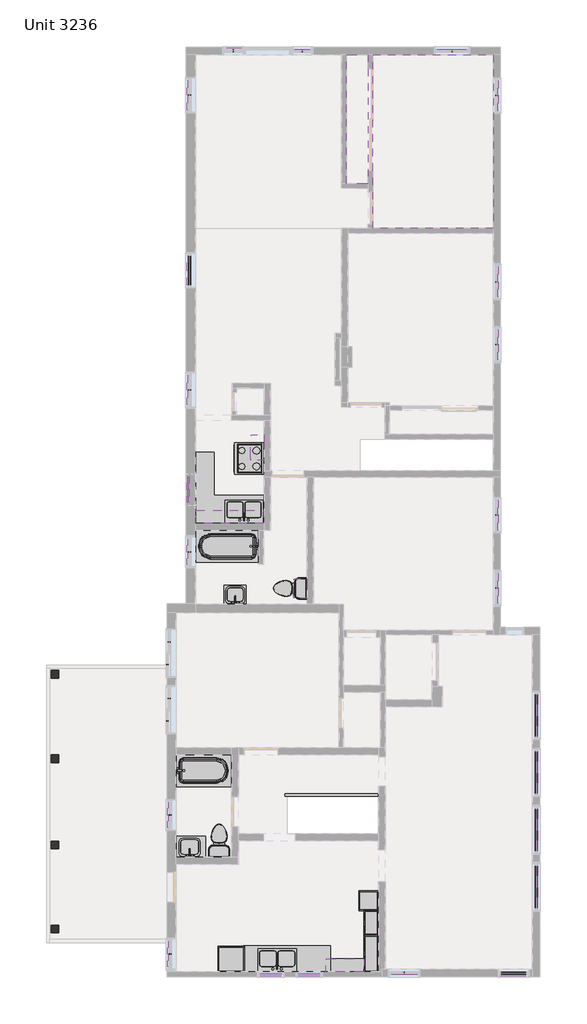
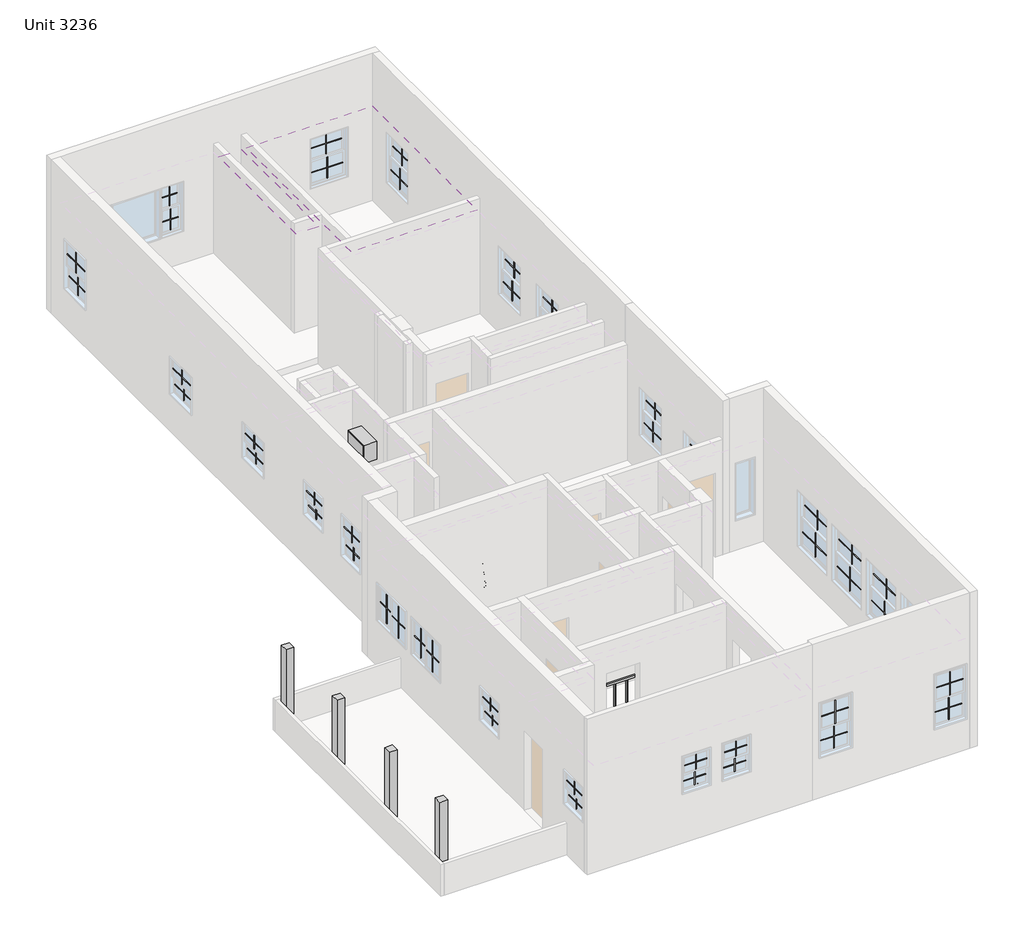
# One storey, part 3 of 3: 56 proxies, 8 flow terminals, 8 furniture elements, 4 columns, 2 coverings, 1 railing.
"""IFC4 building model written with IfcOpenShell, lengths in millimetres."""

from ifc_helpers import new_model, si_unit, frame, origin, place, context, project, spatial, polyline, outline, extrude, transform, mapped, element, save
from components import countertop_rectangle_shape_base_default_1_9c208747, countertop_rectangle_shape_base_default_1_ba904f1b, countertop_rectangle_shape_base_default_1_86df66de, countertop_rectangle_shape_base_default_1_dbb71e68, default_1_6962a21b, muntin_pattern_2x2_muntin_pattern_2x2_335bf343, muntin_pattern_2x2_muntin_pattern_2x2_088060db, muntin_pattern_2x2_muntin_pattern_2x2_c461390f, muntin_pattern_2x2_muntin_pattern_2x2_15a54056, muntin_pattern_2x2_muntin_pattern_2x2_07ca9e42, muntin_pattern_2x2_muntin_pattern_2x2_2e999a57, muntin_pattern_2x2_muntin_pattern_2x2_c2d573db, muntin_pattern_2x2_muntin_pattern_2x2_9f8062bf, muntin_pattern_2x2_muntin_pattern_2x2_a0f89851, muntin_pattern_2x2_muntin_pattern_2x2_6bdc9780, muntin_pattern_2x2_muntin_pattern_2x2_f959a747, stove_default_1_9706c03c, flow_terminal_2d_kitchen_double_sink_default_1_847390bf, flow_terminal_2d_kitchen_double_sink_default_1_4ed9f79b, bath_basin_do_not_use_500_x_440mm_22030706, bath_basin_do_not_use_500_x_440mm_69736ad6, bath_bathtub_default_1_110718b2, bath_bathtub_default_1_21554224, toilet_default_1_5cb52bd4, toilet_default_1_183bbd19, tall_cabinet_double_door_4_default_1_131b94b9, tall_cabinet_double_door_4_default_1_5a30d7e3, tall_cabinet_double_door_4_default_1_fbb226ff, furniture_6a7c2255, furniture_66714404, furniture_1611b9c0, furniture_12663e75, furniture_e144d364

model = new_model("IFC4")

# Units and contexts
model_context = context("Model", 3, world=origin())
ifc_project = project(units=[si_unit("LENGTHUNIT", "METRE", prefix="MILLI")], contexts=[model_context])

# Site, building, storey
site = spatial("IfcSite", under=ifc_project)
building = spatial("IfcBuilding", under=site)
storey = spatial("IfcBuildingStorey", under=building, Name="Unit 3236", Elevation=2895.6)

# Proxies
placement = place(None, origin())
countertop_rectangle_shape_base_default_1_shape = countertop_rectangle_shape_base_default_1_9c208747(model_context)
element("IfcBuildingElementProxy", 1, Name="Countertop- Rectangle shape base : Default 1", ObjectType="Countertop- Rectangle shape base : Default 1", at=placement, inside=storey, context=model_context, shape_type="MappedRepresentation", body=[
    mapped(countertop_rectangle_shape_base_default_1_shape, transform((-4184.0802402, -6979.2961647, 2895.6), x_axis=(1.0, 0.0, 0.0), y_axis=(0.0, 1.0, 0.0), z_axis=(0.0, 0.0, 1.0))),
])
countertop_rectangle_shape_base_default_1_2_shape = countertop_rectangle_shape_base_default_1_ba904f1b(model_context)
element("IfcBuildingElementProxy", 2, Name="Countertop- Rectangle shape base : Default 1", ObjectType="Countertop- Rectangle shape base : Default 1", at=placement, inside=storey, context=model_context, shape_type="MappedRepresentation", body=[
    mapped(countertop_rectangle_shape_base_default_1_2_shape, transform((-1869.5052402, -9662.1711647, 2895.6), x_axis=(1.0, 0.0, 0.0), y_axis=(0.0, 1.0, 0.0), z_axis=(0.0, 0.0, 1.0))),
])
countertop_rectangle_shape_base_default_1_3_shape = countertop_rectangle_shape_base_default_1_86df66de(model_context)
element("IfcBuildingElementProxy", 3, Name="Countertop- Rectangle shape base : Default 1", ObjectType="Countertop- Rectangle shape base : Default 1", at=placement, inside=storey, context=model_context, shape_type="MappedRepresentation", body=[
    mapped(countertop_rectangle_shape_base_default_1_3_shape, transform((-3107.7552402, -956.3211647, 2895.6), x_axis=(1.0, 0.0, 0.0), y_axis=(0.0, 1.0, 0.0), z_axis=(0.0, 0.0, 1.0))),
])
countertop_rectangle_shape_base_default_1_4_shape = countertop_rectangle_shape_base_default_1_dbb71e68(model_context)
element("IfcBuildingElementProxy", 4, Name="Countertop- Rectangle shape base : Default 1", ObjectType="Countertop- Rectangle shape base : Default 1", at=placement, inside=storey, context=model_context, shape_type="MappedRepresentation", body=[
    mapped(countertop_rectangle_shape_base_default_1_4_shape, transform((-437.5802402, -9814.5711647, 2895.6), x_axis=(1.0, 0.0, 0.0), y_axis=(0.0, 1.0, 0.0), z_axis=(0.0, 0.0, 1.0))),
])
default_1_shape = default_1_6962a21b(model_context)
element("IfcBuildingElementProxy", 5, Name="Countertop- L  Shape base : Default 1", ObjectType="Countertop- L  Shape base : Default 1", at=placement, inside=storey, context=model_context, shape_type="MappedRepresentation", body=[
    mapped(default_1_shape, transform((-3187.6302402, 1142.3538353, 2895.6), x_axis=(1.0, 0.0, 0.0), y_axis=(0.0, 1.0, 0.0), z_axis=(0.0, 0.0, 1.0))),
])
muntin_pattern_2x2_muntin_pattern_2x2_shape = muntin_pattern_2x2_muntin_pattern_2x2_335bf343(model_context)
element("IfcBuildingElementProxy", 6, Name="Muntin Pattern_2x2 : Muntin Pattern_2x2", ObjectType="Muntin Pattern_2x2 : Muntin Pattern_2x2", at=placement, inside=storey, context=model_context, shape_type="MappedRepresentation", body=[
    mapped(muntin_pattern_2x2_muntin_pattern_2x2_shape, transform((4318.5697598, -9662.1711647, 4276.725), x_axis=(-1.0, 0.0, 0.0), y_axis=(0.0, -1.0, 0.0), z_axis=(0.0, 0.0, 1.0))),
])
element("IfcBuildingElementProxy", 7, Name="Muntin Pattern_2x2 : Muntin Pattern_2x2", ObjectType="Muntin Pattern_2x2 : Muntin Pattern_2x2", at=placement, inside=storey, context=model_context, shape_type="MappedRepresentation", body=[
    mapped(muntin_pattern_2x2_muntin_pattern_2x2_shape, transform((4318.5697598, -9617.7211647, 3657.6), x_axis=(-1.0, 0.0, 0.0), y_axis=(0.0, -1.0, 0.0), z_axis=(0.0, 0.0, 1.0))),
])
element("IfcBuildingElementProxy", 8, Name="Muntin Pattern_2x2 : Muntin Pattern_2x2", ObjectType="Muntin Pattern_2x2 : Muntin Pattern_2x2", at=placement, inside=storey, context=model_context, shape_type="MappedRepresentation", body=[
    mapped(muntin_pattern_2x2_muntin_pattern_2x2_shape, transform((1696.0197598, -9662.1711647, 4505.325), x_axis=(-1.0, 0.0, 0.0), y_axis=(0.0, -1.0, 0.0), z_axis=(0.0, 0.0, 1.0))),
])
element("IfcBuildingElementProxy", 9, Name="Muntin Pattern_2x2 : Muntin Pattern_2x2", ObjectType="Muntin Pattern_2x2 : Muntin Pattern_2x2", at=placement, inside=storey, context=model_context, shape_type="MappedRepresentation", body=[
    mapped(muntin_pattern_2x2_muntin_pattern_2x2_shape, transform((1696.0197598, -9617.7211647, 3886.2), x_axis=(-1.0, 0.0, 0.0), y_axis=(0.0, -1.0, 0.0), z_axis=(0.0, 0.0, 1.0))),
])
muntin_pattern_2x2_muntin_pattern_2x2_2_shape = muntin_pattern_2x2_muntin_pattern_2x2_088060db(model_context)
element("IfcBuildingElementProxy", 10, Name="Muntin Pattern_2x2 : Muntin Pattern_2x2", ObjectType="Muntin Pattern_2x2 : Muntin Pattern_2x2", at=placement, inside=storey, context=model_context, shape_type="MappedRepresentation", body=[
    mapped(muntin_pattern_2x2_muntin_pattern_2x2_2_shape, transform((4905.9447598, -7550.7961647, 4289.425), x_axis=(0.0, -1.0, 0.0), y_axis=(1.0, 0.0, 0.0), z_axis=(0.0, 0.0, 1.0))),
])
element("IfcBuildingElementProxy", 11, Name="Muntin Pattern_2x2 : Muntin Pattern_2x2", ObjectType="Muntin Pattern_2x2 : Muntin Pattern_2x2", at=placement, inside=storey, context=model_context, shape_type="MappedRepresentation", body=[
    mapped(muntin_pattern_2x2_muntin_pattern_2x2_2_shape, transform((4861.4947598, -7550.7961647, 3657.6), x_axis=(0.0, -1.0, 0.0), y_axis=(1.0, 0.0, 0.0), z_axis=(0.0, 0.0, 1.0))),
])
element("IfcBuildingElementProxy", 12, Name="Muntin Pattern_2x2 : Muntin Pattern_2x2", ObjectType="Muntin Pattern_2x2 : Muntin Pattern_2x2", at=placement, inside=storey, context=model_context, shape_type="MappedRepresentation", body=[
    mapped(muntin_pattern_2x2_muntin_pattern_2x2_2_shape, transform((4905.9447598, -6185.5461647, 4289.425), x_axis=(0.0, -1.0, 0.0), y_axis=(1.0, 0.0, 0.0), z_axis=(0.0, 0.0, 1.0))),
])
element("IfcBuildingElementProxy", 13, Name="Muntin Pattern_2x2 : Muntin Pattern_2x2", ObjectType="Muntin Pattern_2x2 : Muntin Pattern_2x2", at=placement, inside=storey, context=model_context, shape_type="MappedRepresentation", body=[
    mapped(muntin_pattern_2x2_muntin_pattern_2x2_2_shape, transform((4861.4947598, -6185.5461647, 3657.6), x_axis=(0.0, -1.0, 0.0), y_axis=(1.0, 0.0, 0.0), z_axis=(0.0, 0.0, 1.0))),
])
element("IfcBuildingElementProxy", 14, Name="Muntin Pattern_2x2 : Muntin Pattern_2x2", ObjectType="Muntin Pattern_2x2 : Muntin Pattern_2x2", at=placement, inside=storey, context=model_context, shape_type="MappedRepresentation", body=[
    mapped(muntin_pattern_2x2_muntin_pattern_2x2_2_shape, transform((4905.9447598, -4813.9461647, 4289.425), x_axis=(0.0, -1.0, 0.0), y_axis=(1.0, 0.0, 0.0), z_axis=(0.0, 0.0, 1.0))),
])
element("IfcBuildingElementProxy", 15, Name="Muntin Pattern_2x2 : Muntin Pattern_2x2", ObjectType="Muntin Pattern_2x2 : Muntin Pattern_2x2", at=placement, inside=storey, context=model_context, shape_type="MappedRepresentation", body=[
    mapped(muntin_pattern_2x2_muntin_pattern_2x2_2_shape, transform((4861.4947598, -4813.9461647, 3657.6), x_axis=(0.0, -1.0, 0.0), y_axis=(1.0, 0.0, 0.0), z_axis=(0.0, 0.0, 1.0))),
])
element("IfcBuildingElementProxy", 16, Name="Muntin Pattern_2x2 : Muntin Pattern_2x2", ObjectType="Muntin Pattern_2x2 : Muntin Pattern_2x2", at=placement, inside=storey, context=model_context, shape_type="MappedRepresentation", body=[
    mapped(muntin_pattern_2x2_muntin_pattern_2x2_2_shape, transform((4905.9447598, -3448.6961647, 4289.425), x_axis=(0.0, -1.0, 0.0), y_axis=(1.0, 0.0, 0.0), z_axis=(0.0, 0.0, 1.0))),
])
element("IfcBuildingElementProxy", 17, Name="Muntin Pattern_2x2 : Muntin Pattern_2x2", ObjectType="Muntin Pattern_2x2 : Muntin Pattern_2x2", at=placement, inside=storey, context=model_context, shape_type="MappedRepresentation", body=[
    mapped(muntin_pattern_2x2_muntin_pattern_2x2_2_shape, transform((4861.4947598, -3448.6961647, 3657.6), x_axis=(0.0, -1.0, 0.0), y_axis=(1.0, 0.0, 0.0), z_axis=(0.0, 0.0, 1.0))),
])
muntin_pattern_2x2_muntin_pattern_2x2_3_shape = muntin_pattern_2x2_muntin_pattern_2x2_c461390f(model_context)
element("IfcBuildingElementProxy", 18, Name="Muntin Pattern_2x2 : Muntin Pattern_2x2", ObjectType="Muntin Pattern_2x2 : Muntin Pattern_2x2", at=placement, inside=storey, context=model_context, shape_type="MappedRepresentation", body=[
    mapped(muntin_pattern_2x2_muntin_pattern_2x2_3_shape, transform((3959.7947598, -407.0461647, 4391.025), x_axis=(0.0, -1.0, 0.0), y_axis=(1.0, 0.0, 0.0), z_axis=(0.0, 0.0, 1.0))),
])
element("IfcBuildingElementProxy", 19, Name="Muntin Pattern_2x2 : Muntin Pattern_2x2", ObjectType="Muntin Pattern_2x2 : Muntin Pattern_2x2", at=placement, inside=storey, context=model_context, shape_type="MappedRepresentation", body=[
    mapped(muntin_pattern_2x2_muntin_pattern_2x2_3_shape, transform((3915.3447598, -407.0461647, 3860.8), x_axis=(0.0, -1.0, 0.0), y_axis=(1.0, 0.0, 0.0), z_axis=(0.0, 0.0, 1.0))),
])
element("IfcBuildingElementProxy", 20, Name="Muntin Pattern_2x2 : Muntin Pattern_2x2", ObjectType="Muntin Pattern_2x2 : Muntin Pattern_2x2", at=placement, inside=storey, context=model_context, shape_type="MappedRepresentation", body=[
    mapped(muntin_pattern_2x2_muntin_pattern_2x2_3_shape, transform((3959.7947598, 1339.2038353, 4391.025), x_axis=(0.0, -1.0, 0.0), y_axis=(1.0, 0.0, 0.0), z_axis=(0.0, 0.0, 1.0))),
])
element("IfcBuildingElementProxy", 21, Name="Muntin Pattern_2x2 : Muntin Pattern_2x2", ObjectType="Muntin Pattern_2x2 : Muntin Pattern_2x2", at=placement, inside=storey, context=model_context, shape_type="MappedRepresentation", body=[
    mapped(muntin_pattern_2x2_muntin_pattern_2x2_3_shape, transform((3915.3447598, 1339.2038353, 3860.8), x_axis=(0.0, -1.0, 0.0), y_axis=(1.0, 0.0, 0.0), z_axis=(0.0, 0.0, 1.0))),
])
element("IfcBuildingElementProxy", 22, Name="Muntin Pattern_2x2 : Muntin Pattern_2x2", ObjectType="Muntin Pattern_2x2 : Muntin Pattern_2x2", at=placement, inside=storey, context=model_context, shape_type="MappedRepresentation", body=[
    mapped(muntin_pattern_2x2_muntin_pattern_2x2_3_shape, transform((3959.7947598, 5415.9038353, 4416.425), x_axis=(0.0, -1.0, 0.0), y_axis=(1.0, 0.0, 0.0), z_axis=(0.0, 0.0, 1.0))),
])
element("IfcBuildingElementProxy", 23, Name="Muntin Pattern_2x2 : Muntin Pattern_2x2", ObjectType="Muntin Pattern_2x2 : Muntin Pattern_2x2", at=placement, inside=storey, context=model_context, shape_type="MappedRepresentation", body=[
    mapped(muntin_pattern_2x2_muntin_pattern_2x2_3_shape, transform((3915.3447598, 5415.9038353, 3886.2), x_axis=(0.0, -1.0, 0.0), y_axis=(1.0, 0.0, 0.0), z_axis=(0.0, 0.0, 1.0))),
])
element("IfcBuildingElementProxy", 24, Name="Muntin Pattern_2x2 : Muntin Pattern_2x2", ObjectType="Muntin Pattern_2x2 : Muntin Pattern_2x2", at=placement, inside=storey, context=model_context, shape_type="MappedRepresentation", body=[
    mapped(muntin_pattern_2x2_muntin_pattern_2x2_3_shape, transform((3959.7947598, 6920.8538353, 4416.425), x_axis=(0.0, -1.0, 0.0), y_axis=(1.0, 0.0, 0.0), z_axis=(0.0, 0.0, 1.0))),
])
element("IfcBuildingElementProxy", 25, Name="Muntin Pattern_2x2 : Muntin Pattern_2x2", ObjectType="Muntin Pattern_2x2 : Muntin Pattern_2x2", at=placement, inside=storey, context=model_context, shape_type="MappedRepresentation", body=[
    mapped(muntin_pattern_2x2_muntin_pattern_2x2_3_shape, transform((3915.3447598, 6920.8538353, 3886.2), x_axis=(0.0, -1.0, 0.0), y_axis=(1.0, 0.0, 0.0), z_axis=(0.0, 0.0, 1.0))),
])
muntin_pattern_2x2_muntin_pattern_2x2_4_shape = muntin_pattern_2x2_muntin_pattern_2x2_15a54056(model_context)
element("IfcBuildingElementProxy", 26, Name="Muntin Pattern_2x2 : Muntin Pattern_2x2", ObjectType="Muntin Pattern_2x2 : Muntin Pattern_2x2", at=placement, inside=storey, context=model_context, shape_type="MappedRepresentation", body=[
    mapped(muntin_pattern_2x2_muntin_pattern_2x2_4_shape, transform((-739.2052402, 12492.9788353, 4441.825), x_axis=(1.0, 0.0, 0.0), y_axis=(0.0, 1.0, 0.0), z_axis=(0.0, 0.0, 1.0))),
])
element("IfcBuildingElementProxy", 27, Name="Muntin Pattern_2x2 : Muntin Pattern_2x2", ObjectType="Muntin Pattern_2x2 : Muntin Pattern_2x2", at=placement, inside=storey, context=model_context, shape_type="MappedRepresentation", body=[
    mapped(muntin_pattern_2x2_muntin_pattern_2x2_4_shape, transform((-739.2052402, 12448.5288353, 3886.2), x_axis=(1.0, 0.0, 0.0), y_axis=(0.0, 1.0, 0.0), z_axis=(0.0, 0.0, 1.0))),
])
element("IfcBuildingElementProxy", 28, Name="Muntin Pattern_2x2 : Muntin Pattern_2x2", ObjectType="Muntin Pattern_2x2 : Muntin Pattern_2x2", at=placement, inside=storey, context=model_context, shape_type="MappedRepresentation", body=[
    mapped(muntin_pattern_2x2_muntin_pattern_2x2_4_shape, transform((-2390.2052402, 12492.9788353, 4441.825), x_axis=(1.0, 0.0, 0.0), y_axis=(0.0, 1.0, 0.0), z_axis=(0.0, 0.0, 1.0))),
])
element("IfcBuildingElementProxy", 29, Name="Muntin Pattern_2x2 : Muntin Pattern_2x2", ObjectType="Muntin Pattern_2x2 : Muntin Pattern_2x2", at=placement, inside=storey, context=model_context, shape_type="MappedRepresentation", body=[
    mapped(muntin_pattern_2x2_muntin_pattern_2x2_4_shape, transform((-2390.2052402, 12448.5288353, 3886.2), x_axis=(1.0, 0.0, 0.0), y_axis=(0.0, 1.0, 0.0), z_axis=(0.0, 0.0, 1.0))),
])
muntin_pattern_2x2_muntin_pattern_2x2_5_shape = muntin_pattern_2x2_muntin_pattern_2x2_07ca9e42(model_context)
element("IfcBuildingElementProxy", 30, Name="Muntin Pattern_2x2 : Muntin Pattern_2x2", ObjectType="Muntin Pattern_2x2 : Muntin Pattern_2x2", at=placement, inside=storey, context=model_context, shape_type="MappedRepresentation", body=[
    mapped(muntin_pattern_2x2_muntin_pattern_2x2_5_shape, transform((3959.7947598, 11372.2038353, 4441.825), x_axis=(0.0, -1.0, 0.0), y_axis=(1.0, 0.0, 0.0), z_axis=(0.0, 0.0, 1.0))),
])
element("IfcBuildingElementProxy", 31, Name="Muntin Pattern_2x2 : Muntin Pattern_2x2", ObjectType="Muntin Pattern_2x2 : Muntin Pattern_2x2", at=placement, inside=storey, context=model_context, shape_type="MappedRepresentation", body=[
    mapped(muntin_pattern_2x2_muntin_pattern_2x2_5_shape, transform((3915.3447598, 11372.2038353, 3886.2), x_axis=(0.0, -1.0, 0.0), y_axis=(1.0, 0.0, 0.0), z_axis=(0.0, 0.0, 1.0))),
])
element("IfcBuildingElementProxy", 32, Name="Muntin Pattern_2x2 : Muntin Pattern_2x2", ObjectType="Muntin Pattern_2x2 : Muntin Pattern_2x2", at=placement, inside=storey, context=model_context, shape_type="MappedRepresentation", body=[
    mapped(muntin_pattern_2x2_muntin_pattern_2x2_5_shape, transform((2845.3697598, 12492.9788353, 4441.825), x_axis=(1.0, 0.0, 0.0), y_axis=(0.0, 1.0, 0.0), z_axis=(0.0, 0.0, 1.0))),
])
element("IfcBuildingElementProxy", 33, Name="Muntin Pattern_2x2 : Muntin Pattern_2x2", ObjectType="Muntin Pattern_2x2 : Muntin Pattern_2x2", at=placement, inside=storey, context=model_context, shape_type="MappedRepresentation", body=[
    mapped(muntin_pattern_2x2_muntin_pattern_2x2_5_shape, transform((2845.3697598, 12448.5288353, 3886.2), x_axis=(1.0, 0.0, 0.0), y_axis=(0.0, 1.0, 0.0), z_axis=(0.0, 0.0, 1.0))),
])
element("IfcBuildingElementProxy", 34, Name="Muntin Pattern_2x2 : Muntin Pattern_2x2", ObjectType="Muntin Pattern_2x2 : Muntin Pattern_2x2", at=placement, inside=storey, context=model_context, shape_type="MappedRepresentation", body=[
    mapped(muntin_pattern_2x2_muntin_pattern_2x2_5_shape, transform((-3482.4052402, 11384.9038353, 4441.825), x_axis=(0.0, 1.0, 0.0), y_axis=(-1.0, 0.0, 0.0), z_axis=(0.0, 0.0, 1.0))),
])
element("IfcBuildingElementProxy", 35, Name="Muntin Pattern_2x2 : Muntin Pattern_2x2", ObjectType="Muntin Pattern_2x2 : Muntin Pattern_2x2", at=placement, inside=storey, context=model_context, shape_type="MappedRepresentation", body=[
    mapped(muntin_pattern_2x2_muntin_pattern_2x2_5_shape, transform((-3437.9552402, 11384.9038353, 3886.2), x_axis=(0.0, 1.0, 0.0), y_axis=(-1.0, 0.0, 0.0), z_axis=(0.0, 0.0, 1.0))),
])
muntin_pattern_2x2_muntin_pattern_2x2_6_shape = muntin_pattern_2x2_muntin_pattern_2x2_2e999a57(model_context)
element("IfcBuildingElementProxy", 36, Name="Muntin Pattern_2x2 : Muntin Pattern_2x2", ObjectType="Muntin Pattern_2x2 : Muntin Pattern_2x2", at=placement, inside=storey, context=model_context, shape_type="MappedRepresentation", body=[
    mapped(muntin_pattern_2x2_muntin_pattern_2x2_6_shape, transform((-3482.4052402, 7193.9038353, 4289.425), x_axis=(0.0, 1.0, 0.0), y_axis=(-1.0, 0.0, 0.0), z_axis=(0.0, 0.0, 1.0))),
])
element("IfcBuildingElementProxy", 37, Name="Muntin Pattern_2x2 : Muntin Pattern_2x2", ObjectType="Muntin Pattern_2x2 : Muntin Pattern_2x2", at=placement, inside=storey, context=model_context, shape_type="MappedRepresentation", body=[
    mapped(muntin_pattern_2x2_muntin_pattern_2x2_6_shape, transform((-3437.9552402, 7193.9038353, 3886.2), x_axis=(0.0, 1.0, 0.0), y_axis=(-1.0, 0.0, 0.0), z_axis=(0.0, 0.0, 1.0))),
])
muntin_pattern_2x2_muntin_pattern_2x2_7_shape = muntin_pattern_2x2_muntin_pattern_2x2_c2d573db(model_context)
element("IfcBuildingElementProxy", 38, Name="Muntin Pattern_2x2 : Muntin Pattern_2x2", ObjectType="Muntin Pattern_2x2 : Muntin Pattern_2x2", at=placement, inside=storey, context=model_context, shape_type="MappedRepresentation", body=[
    mapped(muntin_pattern_2x2_muntin_pattern_2x2_7_shape, transform((-3482.4052402, 4330.0538353, 4467.225), x_axis=(0.0, 1.0, 0.0), y_axis=(-1.0, 0.0, 0.0), z_axis=(0.0, 0.0, 1.0))),
])
element("IfcBuildingElementProxy", 39, Name="Muntin Pattern_2x2 : Muntin Pattern_2x2", ObjectType="Muntin Pattern_2x2 : Muntin Pattern_2x2", at=placement, inside=storey, context=model_context, shape_type="MappedRepresentation", body=[
    mapped(muntin_pattern_2x2_muntin_pattern_2x2_7_shape, transform((-3437.9552402, 4330.0538353, 4089.4), x_axis=(0.0, 1.0, 0.0), y_axis=(-1.0, 0.0, 0.0), z_axis=(0.0, 0.0, 1.0))),
])
muntin_pattern_2x2_muntin_pattern_2x2_8_shape = muntin_pattern_2x2_muntin_pattern_2x2_9f8062bf(model_context)
element("IfcBuildingElementProxy", 40, Name="Muntin Pattern_2x2 : Muntin Pattern_2x2", ObjectType="Muntin Pattern_2x2 : Muntin Pattern_2x2", at=placement, inside=storey, context=model_context, shape_type="MappedRepresentation", body=[
    mapped(muntin_pattern_2x2_muntin_pattern_2x2_8_shape, transform((-3482.4052402, 1948.8038353, 4556.125), x_axis=(0.0, 1.0, 0.0), y_axis=(-1.0, 0.0, 0.0), z_axis=(0.0, 0.0, 1.0))),
])
element("IfcBuildingElementProxy", 41, Name="Muntin Pattern_2x2 : Muntin Pattern_2x2", ObjectType="Muntin Pattern_2x2 : Muntin Pattern_2x2", at=placement, inside=storey, context=model_context, shape_type="MappedRepresentation", body=[
    mapped(muntin_pattern_2x2_muntin_pattern_2x2_8_shape, transform((-3437.9552402, 1948.8038353, 4191.0), x_axis=(0.0, 1.0, 0.0), y_axis=(-1.0, 0.0, 0.0), z_axis=(0.0, 0.0, 1.0))),
])
element("IfcBuildingElementProxy", 42, Name="Muntin Pattern_2x2 : Muntin Pattern_2x2", ObjectType="Muntin Pattern_2x2 : Muntin Pattern_2x2", at=placement, inside=storey, context=model_context, shape_type="MappedRepresentation", body=[
    mapped(muntin_pattern_2x2_muntin_pattern_2x2_8_shape, transform((-3945.9552402, -5829.9461647, 4454.525), x_axis=(0.0, 1.0, 0.0), y_axis=(-1.0, 0.0, 0.0), z_axis=(0.0, 0.0, 1.0))),
])
element("IfcBuildingElementProxy", 43, Name="Muntin Pattern_2x2 : Muntin Pattern_2x2", ObjectType="Muntin Pattern_2x2 : Muntin Pattern_2x2", at=placement, inside=storey, context=model_context, shape_type="MappedRepresentation", body=[
    mapped(muntin_pattern_2x2_muntin_pattern_2x2_8_shape, transform((-3901.5052402, -5829.9461647, 4089.4), x_axis=(0.0, 1.0, 0.0), y_axis=(-1.0, 0.0, 0.0), z_axis=(0.0, 0.0, 1.0))),
])
element("IfcBuildingElementProxy", 44, Name="Muntin Pattern_2x2 : Muntin Pattern_2x2", ObjectType="Muntin Pattern_2x2 : Muntin Pattern_2x2", at=placement, inside=storey, context=model_context, shape_type="MappedRepresentation", body=[
    mapped(muntin_pattern_2x2_muntin_pattern_2x2_8_shape, transform((-3945.9552402, -9157.3461647, 4454.525), x_axis=(0.0, 1.0, 0.0), y_axis=(-1.0, 0.0, 0.0), z_axis=(0.0, 0.0, 1.0))),
])
element("IfcBuildingElementProxy", 45, Name="Muntin Pattern_2x2 : Muntin Pattern_2x2", ObjectType="Muntin Pattern_2x2 : Muntin Pattern_2x2", at=placement, inside=storey, context=model_context, shape_type="MappedRepresentation", body=[
    mapped(muntin_pattern_2x2_muntin_pattern_2x2_8_shape, transform((-3901.5052402, -9157.3461647, 4089.4), x_axis=(0.0, 1.0, 0.0), y_axis=(-1.0, 0.0, 0.0), z_axis=(0.0, 0.0, 1.0))),
])
muntin_pattern_2x2_muntin_pattern_2x2_9_shape = muntin_pattern_2x2_muntin_pattern_2x2_a0f89851(model_context)
element("IfcBuildingElementProxy", 46, Name="Muntin Pattern_2x2 : Muntin Pattern_2x2", ObjectType="Muntin Pattern_2x2 : Muntin Pattern_2x2", at=placement, inside=storey, context=model_context, shape_type="MappedRepresentation", body=[
    mapped(muntin_pattern_2x2_muntin_pattern_2x2_9_shape, transform((-3482.4052402, 462.9038353, 4543.425), x_axis=(0.0, 1.0, 0.0), y_axis=(-1.0, 0.0, 0.0), z_axis=(0.0, 0.0, 1.0))),
])
element("IfcBuildingElementProxy", 47, Name="Muntin Pattern_2x2 : Muntin Pattern_2x2", ObjectType="Muntin Pattern_2x2 : Muntin Pattern_2x2", at=placement, inside=storey, context=model_context, shape_type="MappedRepresentation", body=[
    mapped(muntin_pattern_2x2_muntin_pattern_2x2_9_shape, transform((-3437.9552402, 462.9038353, 4089.4), x_axis=(0.0, 1.0, 0.0), y_axis=(-1.0, 0.0, 0.0), z_axis=(0.0, 0.0, 1.0))),
])
muntin_pattern_2x2_muntin_pattern_2x2_10_shape = muntin_pattern_2x2_muntin_pattern_2x2_6bdc9780(model_context)
element("IfcBuildingElementProxy", 48, Name="Muntin Pattern_2x2 : Muntin Pattern_2x2", ObjectType="Muntin Pattern_2x2 : Muntin Pattern_2x2", at=placement, inside=storey, context=model_context, shape_type="MappedRepresentation", body=[
    mapped(muntin_pattern_2x2_muntin_pattern_2x2_10_shape, transform((-3926.9052402, -1688.2368647, 4044.95), x_axis=(0.0, 1.0, 0.0), y_axis=(-1.0, 0.0, 0.0), z_axis=(0.0, 0.0, 1.0))),
])
element("IfcBuildingElementProxy", 49, Name="Muntin Pattern_2x2 : Muntin Pattern_2x2", ObjectType="Muntin Pattern_2x2 : Muntin Pattern_2x2", at=placement, inside=storey, context=model_context, shape_type="MappedRepresentation", body=[
    mapped(muntin_pattern_2x2_muntin_pattern_2x2_10_shape, transform((-3971.3552402, -2231.1618647, 4044.95), x_axis=(0.0, 1.0, 0.0), y_axis=(-1.0, 0.0, 0.0), z_axis=(0.0, 0.0, 1.0))),
])
element("IfcBuildingElementProxy", 50, Name="Muntin Pattern_2x2 : Muntin Pattern_2x2", ObjectType="Muntin Pattern_2x2 : Muntin Pattern_2x2", at=placement, inside=storey, context=model_context, shape_type="MappedRepresentation", body=[
    mapped(muntin_pattern_2x2_muntin_pattern_2x2_10_shape, transform((-3926.9052402, -3043.8836647, 4044.95), x_axis=(0.0, 1.0, 0.0), y_axis=(-1.0, 0.0, 0.0), z_axis=(0.0, 0.0, 1.0))),
])
element("IfcBuildingElementProxy", 51, Name="Muntin Pattern_2x2 : Muntin Pattern_2x2", ObjectType="Muntin Pattern_2x2 : Muntin Pattern_2x2", at=placement, inside=storey, context=model_context, shape_type="MappedRepresentation", body=[
    mapped(muntin_pattern_2x2_muntin_pattern_2x2_10_shape, transform((-3971.3552402, -3586.8086647, 4044.95), x_axis=(0.0, 1.0, 0.0), y_axis=(-1.0, 0.0, 0.0), z_axis=(0.0, 0.0, 1.0))),
])
muntin_pattern_2x2_muntin_pattern_2x2_11_shape = muntin_pattern_2x2_muntin_pattern_2x2_f959a747(model_context)
element("IfcBuildingElementProxy", 52, Name="Muntin Pattern_2x2 : Muntin Pattern_2x2", ObjectType="Muntin Pattern_2x2 : Muntin Pattern_2x2", at=placement, inside=storey, context=model_context, shape_type="MappedRepresentation", body=[
    mapped(muntin_pattern_2x2_muntin_pattern_2x2_11_shape, transform((-1491.6802402, -9662.1711647, 4518.025), x_axis=(-1.0, 0.0, 0.0), y_axis=(0.0, -1.0, 0.0), z_axis=(0.0, 0.0, 1.0))),
])
element("IfcBuildingElementProxy", 53, Name="Muntin Pattern_2x2 : Muntin Pattern_2x2", ObjectType="Muntin Pattern_2x2 : Muntin Pattern_2x2", at=placement, inside=storey, context=model_context, shape_type="MappedRepresentation", body=[
    mapped(muntin_pattern_2x2_muntin_pattern_2x2_11_shape, transform((-1491.6802402, -9617.7211647, 4114.8), x_axis=(-1.0, 0.0, 0.0), y_axis=(0.0, -1.0, 0.0), z_axis=(0.0, 0.0, 1.0))),
])
element("IfcBuildingElementProxy", 54, Name="Muntin Pattern_2x2 : Muntin Pattern_2x2", ObjectType="Muntin Pattern_2x2 : Muntin Pattern_2x2", at=placement, inside=storey, context=model_context, shape_type="MappedRepresentation", body=[
    mapped(muntin_pattern_2x2_muntin_pattern_2x2_11_shape, transform((-577.2802402, -9662.1711647, 4518.025), x_axis=(-1.0, 0.0, 0.0), y_axis=(0.0, -1.0, 0.0), z_axis=(0.0, 0.0, 1.0))),
])
element("IfcBuildingElementProxy", 55, Name="Muntin Pattern_2x2 : Muntin Pattern_2x2", ObjectType="Muntin Pattern_2x2 : Muntin Pattern_2x2", at=placement, inside=storey, context=model_context, shape_type="MappedRepresentation", body=[
    mapped(muntin_pattern_2x2_muntin_pattern_2x2_11_shape, transform((-577.2802402, -9617.7211647, 4114.8), x_axis=(-1.0, 0.0, 0.0), y_axis=(0.0, -1.0, 0.0), z_axis=(0.0, 0.0, 1.0))),
])
stove_default_1_shape = stove_default_1_9706c03c(model_context)
element("IfcBuildingElementProxy", 56, Name="Stove : Default 1", ObjectType="Stove : Default 1", at=placement, inside=storey, context=model_context, shape_type="MappedRepresentation", body=[
    mapped(stove_default_1_shape, transform((-1663.0802402, 2694.5038353, 2895.6), x_axis=(0.0, -1.0, 0.0), y_axis=(1.0, 0.0, 0.0), z_axis=(0.0, 0.0, 1.0))),
])

# Columns
element("IfcColumn", 57, ObjectType="Rectangular Column 3D : Default 1", at=placement, inside=storey, context=model_context, shape_type="SweptSolid", body=[
    extrude(outline(polyline([(-6569.5355583, -8464.0031424), (-6569.5355583, -8649.3461647), (-6749.4802402, -8649.3461647), (-6749.4802402, -8464.0031424), (-6569.5355583, -8464.0031424)])), frame((0.0, 0.0, 2895.6), z_axis=(0.0, 0.0, 1.0), x_axis=(1.0, 0.0, 0.0)), (0.0, 0.0, 1.0), 2032.0),
])
element("IfcColumn", 58, ObjectType="Rectangular Column 3D : Default 1", at=placement, inside=storey, context=model_context, shape_type="SweptSolid", body=[
    extrude(outline(polyline([(-6569.5355583, -6457.4031424), (-6569.5355583, -6642.7461647), (-6749.4802402, -6642.7461647), (-6749.4802402, -6457.4031424), (-6569.5355583, -6457.4031424)])), frame((0.0, 0.0, 2895.6), z_axis=(0.0, 0.0, 1.0), x_axis=(1.0, 0.0, 0.0)), (0.0, 0.0, 1.0), 2032.0),
])
element("IfcColumn", 59, ObjectType="Rectangular Column 3D : Default 1", at=placement, inside=storey, context=model_context, shape_type="SweptSolid", body=[
    extrude(outline(polyline([(-6569.5355583, -4393.6531424), (-6569.5355583, -4578.9961647), (-6749.4802402, -4578.9961647), (-6749.4802402, -4393.6531424), (-6569.5355583, -4393.6531424)])), frame((0.0, 0.0, 2895.6), z_axis=(0.0, 0.0, 1.0), x_axis=(1.0, 0.0, 0.0)), (0.0, 0.0, 1.0), 2032.0),
])
element("IfcColumn", 60, ObjectType="Rectangular Column 3D : Default 1", at=placement, inside=storey, context=model_context, shape_type="SweptSolid", body=[
    extrude(outline(polyline([(-6569.5355583, -2374.3531424), (-6569.5355583, -2559.6961647), (-6749.4802402, -2559.6961647), (-6749.4802402, -2374.3531424), (-6569.5355583, -2374.3531424)])), frame((0.0, 0.0, 2895.6), z_axis=(0.0, 0.0, 1.0), x_axis=(1.0, 0.0, 0.0)), (0.0, 0.0, 1.0), 2032.0),
])

# Coverings
element("IfcCovering", 61, ObjectType="1/2\" Ceiling", at=placement, inside=storey, context=model_context, shape_type="SweptSolid", body=[
    extrude(outline(polyline([(832.4197598, 12350.1038353), (832.4197598, 9270.3538353), (311.7197598, 9270.3538353), (311.7197598, 12350.1038353), (832.4197598, 12350.1038353)])), frame((0.0, 0.0, 5334.0), z_axis=(0.0, 0.0, 1.0), x_axis=(1.0, 0.0, 0.0)), (0.0, 0.0, 1.0), 12.7),
])
element("IfcCovering", 62, ObjectType="1/2\" Ceiling", at=placement, inside=storey, context=model_context, shape_type="SweptSolid", body=[
    extrude(outline(polyline([(946.7197598, 8197.2038353), (946.7197598, 12350.1038353), (3829.6197598, 12350.1038353), (3829.6197598, 8197.2038353), (946.7197598, 8197.2038353)])), frame((0.0, 0.0, 5334.0), z_axis=(0.0, 0.0, 1.0), x_axis=(1.0, 0.0, 0.0)), (0.0, 0.0, 1.0), 12.7),
])

# Flow terminals
flow_terminal_2d_kitchen_double_sink_default_1_shape = flow_terminal_2d_kitchen_double_sink_default_1_847390bf(model_context)
element("IfcFlowTerminal", 63, ObjectType="2D Kitchen-Double Sink : Default 1", at=placement, inside=storey, context=model_context, shape_type="MappedRepresentation", body=[
    mapped(flow_terminal_2d_kitchen_double_sink_default_1_shape, transform((-2119.9409996, 1433.6992364, 3048.0), x_axis=(-1.0, 0.0, 0.0), y_axis=(0.0, -1.0, 0.0), z_axis=(0.0, 0.0, 1.0))),
])
flow_terminal_2d_kitchen_double_sink_default_1_2_shape = flow_terminal_2d_kitchen_double_sink_default_1_4ed9f79b(model_context)
element("IfcFlowTerminal", 64, ObjectType="2D Kitchen-Double Sink : Default 1", at=placement, inside=storey, context=model_context, shape_type="MappedRepresentation", body=[
    mapped(flow_terminal_2d_kitchen_double_sink_default_1_2_shape, transform((-1327.7642692, -9300.2507636, 3048.0), x_axis=(-1.0, 0.0, 0.0), y_axis=(0.0, -1.0, 0.0), z_axis=(0.0, 0.0, 1.0))),
])
bath_basin_do_not_use_500_x_440mm_shape = bath_basin_do_not_use_500_x_440mm_22030706(model_context)
element("IfcFlowTerminal", 65, ObjectType="Bath-Basin DO NOT USE : 500 x 440mm", at=placement, inside=storey, context=model_context, shape_type="MappedRepresentation", body=[
    mapped(bath_basin_do_not_use_500_x_440mm_shape, transform((-3422.7409996, -6642.3007637, 3048.0), x_axis=(-1.0, 0.0, 0.0), y_axis=(0.0, -1.0, 0.0), z_axis=(0.0, 0.0, 1.0))),
])
bath_basin_do_not_use_500_x_440mm_2_shape = bath_basin_do_not_use_500_x_440mm_69736ad6(model_context)
element("IfcFlowTerminal", 66, ObjectType="Bath-Basin DO NOT USE : 500 x 440mm", at=placement, inside=storey, context=model_context, shape_type="MappedRepresentation", body=[
    mapped(bath_basin_do_not_use_500_x_440mm_2_shape, transform((-2331.9740031, -589.6707637, 3048.0), x_axis=(-1.0, 0.0, 0.0), y_axis=(0.0, -1.0, 0.0), z_axis=(0.0, 0.0, 1.0))),
])
bath_bathtub_default_1_shape = bath_bathtub_default_1_110718b2(model_context)
element("IfcFlowTerminal", 67, ObjectType="Bath-Bathtub : Default 1", at=placement, inside=storey, context=model_context, shape_type="MappedRepresentation", body=[
    mapped(bath_bathtub_default_1_shape, transform((-2887.5332089, 1059.8038353, 2895.6), x_axis=(-1.0, 0.0, 0.0), y_axis=(0.0, -1.0, 0.0), z_axis=(0.0, 0.0, 1.0))),
])
bath_bathtub_default_1_2_shape = bath_bathtub_default_1_21554224(model_context)
element("IfcFlowTerminal", 68, ObjectType="Bath-Bathtub : Default 1", at=placement, inside=storey, context=model_context, shape_type="MappedRepresentation", body=[
    mapped(bath_bathtub_default_1_2_shape, transform((-2661.2272715, -4305.9461647, 2895.6), x_axis=(1.0, 0.0, 0.0), y_axis=(0.0, 1.0, 0.0), z_axis=(0.0, 0.0, 1.0))),
])
toilet_default_1_shape = toilet_default_1_5cb52bd4(model_context)
toilet_default_1_2_shape = toilet_default_1_183bbd19(model_context)
element("IfcFlowTerminal", 69, ObjectType="Toilet : Default 1", at=placement, inside=storey, context=model_context, shape_type="MappedRepresentation", body=[
    mapped(toilet_default_1_shape, transform((-1129.1262675, -412.4461647, 2895.6), x_axis=(0.0, -1.0, 0.0), y_axis=(1.0, 0.0, 0.0), z_axis=(0.0, 0.0, 1.0))),
    mapped(toilet_default_1_2_shape, transform((-1129.1262675, -412.4461647, 2895.6), x_axis=(0.0, -1.0, 0.0), y_axis=(1.0, 0.0, 0.0), z_axis=(0.0, 0.0, 1.0))),
])
element("IfcFlowTerminal", 70, ObjectType="Toilet : Default 1", at=placement, inside=storey, context=model_context, shape_type="MappedRepresentation", body=[
    mapped(toilet_default_1_shape, transform((-2731.2302402, -6351.5501374, 2895.6), x_axis=(-1.0, 0.0, 0.0), y_axis=(0.0, -1.0, 0.0), z_axis=(0.0, 0.0, 1.0))),
    mapped(toilet_default_1_2_shape, transform((-2731.2302402, -6351.5501374, 2895.6), x_axis=(-1.0, 0.0, 0.0), y_axis=(0.0, -1.0, 0.0), z_axis=(0.0, 0.0, 1.0))),
])

# Furniture
tall_cabinet_double_door_4_default_1_shape = tall_cabinet_double_door_4_default_1_131b94b9(model_context)
element("IfcFurniture", 71, ObjectType="Tall Cabinet-Double Door(4) : Default 1", at=placement, inside=storey, context=model_context, shape_type="MappedRepresentation", body=[
    mapped(tall_cabinet_double_door_4_default_1_shape, transform((1080.0697598, -7862.2584598, 2895.6), x_axis=(0.0, -1.0, 0.0), y_axis=(1.0, 0.0, 0.0), z_axis=(0.0, 0.0, 1.0))),
])
tall_cabinet_double_door_4_default_1_2_shape = tall_cabinet_double_door_4_default_1_5a30d7e3(model_context)
element("IfcFurniture", 72, ObjectType="Tall Cabinet-Double Door(4) : Default 1", at=placement, inside=storey, context=model_context, shape_type="MappedRepresentation", body=[
    mapped(tall_cabinet_double_door_4_default_1_2_shape, transform((1080.0697598, -8392.2910749, 2895.6), x_axis=(0.0, -1.0, 0.0), y_axis=(1.0, 0.0, 0.0), z_axis=(0.0, 0.0, 1.0))),
])
tall_cabinet_double_door_4_default_1_3_shape = tall_cabinet_double_door_4_default_1_fbb226ff(model_context)
element("IfcFurniture", 73, ObjectType="Tall Cabinet-Double Door(4) : Default 1", at=placement, inside=storey, context=model_context, shape_type="MappedRepresentation", body=[
    mapped(tall_cabinet_double_door_4_default_1_3_shape, transform((1080.0697598, -9125.7160749, 2895.6), x_axis=(0.0, -1.0, 0.0), y_axis=(1.0, 0.0, 0.0), z_axis=(0.0, 0.0, 1.0))),
])
furniture_shape = furniture_6a7c2255(model_context)
element("IfcFurniture", 74, ObjectType="Tall Cabinet-Single Door(2) : 24\"", at=placement, inside=storey, context=model_context, shape_type="MappedRepresentation", body=[
    mapped(furniture_shape, transform((-2425.4425352, -9582.7961647, 2895.6), x_axis=(-1.0, 0.0, 0.0), y_axis=(0.0, -1.0, 0.0), z_axis=(0.0, 0.0, 1.0))),
])
furniture_2_shape = furniture_66714404(model_context)
element("IfcFurniture", 75, ObjectType="Upper Cabinet-Single Door-Wall : 18\"", at=placement, inside=storey, context=model_context, shape_type="MappedRepresentation", body=[
    mapped(furniture_2_shape, transform((-551.8802402, -443.1673275, 2895.6), x_axis=(0.0, 1.0, 0.0), y_axis=(-1.0, 0.0, 0.0), z_axis=(0.0, 0.0, 1.0))),
])
furniture_3_shape = furniture_1611b9c0(model_context)
element("IfcFurniture", 76, ObjectType="Upper Cabinet-Single Door-Wall : 24\"", at=placement, inside=storey, context=model_context, shape_type="MappedRepresentation", body=[
    mapped(furniture_3_shape, transform((-1923.4630138, 1059.8038353, 2895.6), x_axis=(1.0, 0.0, 0.0), y_axis=(0.0, 1.0, 0.0), z_axis=(0.0, 0.0, 1.0))),
])
furniture_4_shape = furniture_12663e75(model_context)
element("IfcFurniture", 77, ObjectType="Upper Cabinet-Single Door-Wall : 24\"", at=placement, inside=storey, context=model_context, shape_type="MappedRepresentation", body=[
    mapped(furniture_4_shape, transform((-1580.5802402, 3004.8826725, 2895.6), x_axis=(0.0, 1.0, 0.0), y_axis=(-1.0, 0.0, 0.0), z_axis=(0.0, 0.0, 1.0))),
])
furniture_5_shape = furniture_e144d364(model_context)
element("IfcFurniture", 78, ObjectType="Upper Cabinet-Single Door-Wall : 24\"", at=placement, inside=storey, context=model_context, shape_type="MappedRepresentation", body=[
    mapped(furniture_5_shape, transform((478.798597, -9639.9461647, 2895.6), x_axis=(1.0, 0.0, 0.0), y_axis=(0.0, 1.0, 0.0), z_axis=(0.0, 0.0, 1.0))),
])

# Railing
element("IfcRailing", 79, ObjectType="900mm Rectangular", at=placement, inside=storey, context=model_context, shape_type="SweptSolid", body=[
    extrude(outline(polyline([(1080.0697598, -5328.6961647), (1080.0697598, -5378.6961647), (-1155.1302402, -5378.6961647), (-1155.1302402, -5328.6961647), (1080.0697598, -5328.6961647)])), frame((0.0, 0.0, 3745.6), z_axis=(0.0, 0.0, 1.0), x_axis=(1.0, 0.0, 0.0)), (0.0, 0.0, 1.0), 50.0),
    extrude(outline(polyline([(-1107.4302402, -5341.1961647), (-1107.4302402, -5366.1961647), (-1132.4302402, -5366.1961647), (-1132.4302402, -5341.1961647), (-1107.4302402, -5341.1961647)])), frame((0.0, 0.0, 2895.6), z_axis=(0.0, 0.0, 1.0), x_axis=(1.0, 0.0, 0.0)), (0.0, 0.0, 1.0), 850.0),
    extrude(outline(polyline([(-832.4302402, -5341.1961647), (-832.4302402, -5366.1961647), (-857.4302402, -5366.1961647), (-857.4302402, -5341.1961647), (-832.4302402, -5341.1961647)])), frame((0.0, 0.0, 2895.6), z_axis=(0.0, 0.0, 1.0), x_axis=(1.0, 0.0, 0.0)), (0.0, 0.0, 1.0), 850.0),
    extrude(outline(polyline([(-557.4302402, -5341.1961647), (-557.4302402, -5366.1961647), (-582.4302402, -5366.1961647), (-582.4302402, -5341.1961647), (-557.4302402, -5341.1961647)])), frame((0.0, 0.0, 2895.6), z_axis=(0.0, 0.0, 1.0), x_axis=(1.0, 0.0, 0.0)), (0.0, 0.0, 1.0), 850.0),
    extrude(outline(polyline([(-282.4302402, -5341.1961647), (-282.4302402, -5366.1961647), (-307.4302402, -5366.1961647), (-307.4302402, -5341.1961647), (-282.4302402, -5341.1961647)])), frame((0.0, 0.0, 2895.6), z_axis=(0.0, 0.0, 1.0), x_axis=(1.0, 0.0, 0.0)), (0.0, 0.0, 1.0), 850.0),
    extrude(outline(polyline([(-7.4302402, -5341.1961647), (-7.4302402, -5366.1961647), (-32.4302402, -5366.1961647), (-32.4302402, -5341.1961647), (-7.4302402, -5341.1961647)])), frame((0.0, 0.0, 2895.6), z_axis=(0.0, 0.0, 1.0), x_axis=(1.0, 0.0, 0.0)), (0.0, 0.0, 1.0), 850.0),
    extrude(outline(polyline([(267.5697598, -5341.1961647), (267.5697598, -5366.1961647), (242.5697598, -5366.1961647), (242.5697598, -5341.1961647), (267.5697598, -5341.1961647)])), frame((0.0, 0.0, 2895.6), z_axis=(0.0, 0.0, 1.0), x_axis=(1.0, 0.0, 0.0)), (0.0, 0.0, 1.0), 850.0),
    extrude(outline(polyline([(542.5697598, -5341.1961647), (542.5697598, -5366.1961647), (517.5697598, -5366.1961647), (517.5697598, -5341.1961647), (542.5697598, -5341.1961647)])), frame((0.0, 0.0, 2895.6), z_axis=(0.0, 0.0, 1.0), x_axis=(1.0, 0.0, 0.0)), (0.0, 0.0, 1.0), 850.0),
    extrude(outline(polyline([(817.5697598, -5341.1961647), (817.5697598, -5366.1961647), (792.5697598, -5366.1961647), (792.5697598, -5341.1961647), (817.5697598, -5341.1961647)])), frame((0.0, 0.0, 2895.6), z_axis=(0.0, 0.0, 1.0), x_axis=(1.0, 0.0, 0.0)), (0.0, 0.0, 1.0), 850.0),
    extrude(outline(polyline([(-1130.1302402, -5341.1961647), (-1130.1302402, -5366.1961647), (-1155.1302402, -5366.1961647), (-1155.1302402, -5341.1961647), (-1130.1302402, -5341.1961647)])), frame((0.0, 0.0, 2895.6), z_axis=(0.0, 0.0, 1.0), x_axis=(1.0, 0.0, 0.0)), (0.0, 0.0, 1.0), 850.0),
    extrude(outline(polyline([(1080.0697598, -5341.1961647), (1080.0697598, -5366.1961647), (1055.0697598, -5366.1961647), (1055.0697598, -5341.1961647), (1080.0697598, -5341.1961647)])), frame((0.0, 0.0, 2895.6), z_axis=(0.0, 0.0, 1.0), x_axis=(1.0, 0.0, 0.0)), (0.0, 0.0, 1.0), 850.0),
])

save(model, "model.ifc")
